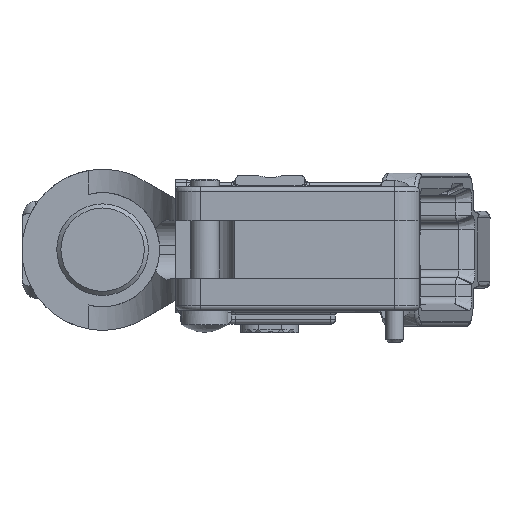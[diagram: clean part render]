
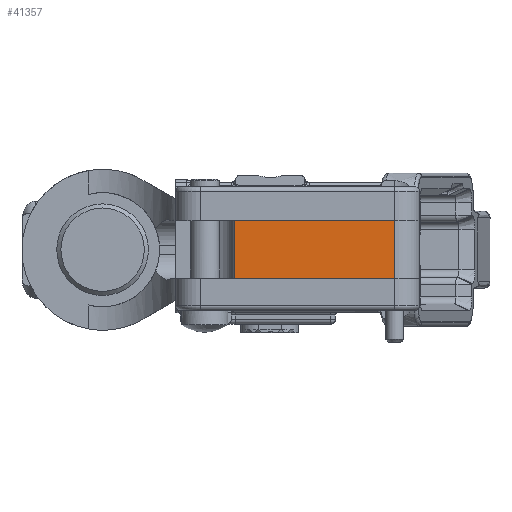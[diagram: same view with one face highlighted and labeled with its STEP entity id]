
A CAD part, left-side view. The second image highlights one B-rep face of the part: STEP entity #41357.
In plain terms, the highlighted planar face has unit normal (-1, 0, 0) as drawn and (1, 0, 0) by its records, which use the part's own axes.
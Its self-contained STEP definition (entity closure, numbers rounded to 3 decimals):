
#1022=PLANE('',#43623);
#3772=FACE_OUTER_BOUND('',#6230,.T.);
#6230=EDGE_LOOP('',(#34923,#34924,#34925,#34926));
#12021=LINE('',#103148,#15547);
#12022=LINE('',#103150,#15548);
#12023=LINE('',#103152,#15549);
#12024=LINE('',#103153,#15550);
#15547=VECTOR('',#49104,10.);
#15548=VECTOR('',#49105,10.);
#15549=VECTOR('',#49106,10.);
#15550=VECTOR('',#49107,10.);
#19870=VERTEX_POINT('',#103146);
#19871=VERTEX_POINT('',#103147);
#19872=VERTEX_POINT('',#103149);
#19873=VERTEX_POINT('',#103151);
#25186=EDGE_CURVE('',#19870,#19871,#12021,.T.);
#25187=EDGE_CURVE('',#19870,#19872,#12022,.T.);
#25188=EDGE_CURVE('',#19872,#19873,#12023,.T.);
#25189=EDGE_CURVE('',#19871,#19873,#12024,.T.);
#34923=ORIENTED_EDGE('',*,*,#25186,.F.);
#34924=ORIENTED_EDGE('',*,*,#25187,.T.);
#34925=ORIENTED_EDGE('',*,*,#25188,.T.);
#34926=ORIENTED_EDGE('',*,*,#25189,.F.);
#41357=ADVANCED_FACE('',(#3772),#1022,.T.);
#43623=AXIS2_PLACEMENT_3D('',#103145,#49102,#49103);
#49102=DIRECTION('center_axis',(1.,0.,0.));
#49103=DIRECTION('ref_axis',(0.,-1.,0.));
#49104=DIRECTION('',(0.,1.,0.));
#49105=DIRECTION('',(0.,0.,-1.));
#49106=DIRECTION('',(0.,1.,0.));
#49107=DIRECTION('',(0.,0.,-1.));
#103145=CARTESIAN_POINT('Origin',(5.379,-11.434,6.35));
#103146=CARTESIAN_POINT('',(5.379,-41.434,6.35));
#103147=CARTESIAN_POINT('',(5.379,-6.434,6.35));
#103148=CARTESIAN_POINT('',(5.379,-11.434,6.35));
#103149=CARTESIAN_POINT('',(5.379,-41.434,-6.35));
#103150=CARTESIAN_POINT('',(5.379,-41.434,6.35));
#103151=CARTESIAN_POINT('',(5.379,-6.434,-6.35));
#103152=CARTESIAN_POINT('',(5.379,-11.434,-6.35));
#103153=CARTESIAN_POINT('',(5.379,-6.434,6.35));
